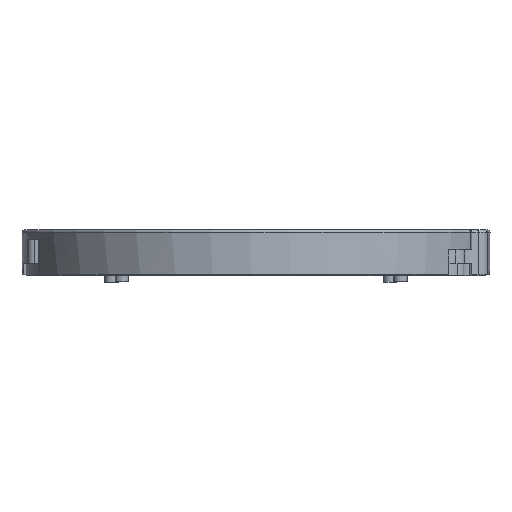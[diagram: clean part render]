
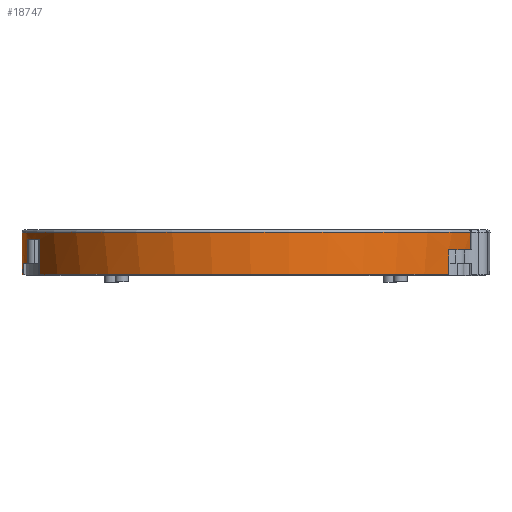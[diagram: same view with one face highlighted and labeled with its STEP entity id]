
A CAD part, top view. The second image highlights one B-rep face of the part: STEP entity #18747.
In plain terms, the highlighted cylindrical face has radius 17.5 mm (diameter 35 mm), a partial arc.
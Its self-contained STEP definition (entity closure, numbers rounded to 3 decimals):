
#1121=CIRCLE('',#19620,17.5);
#1209=CIRCLE('',#19878,17.5);
#1213=CIRCLE('',#19883,17.5);
#1235=CIRCLE('',#19919,17.5);
#1236=CIRCLE('',#19920,17.5);
#1237=CIRCLE('',#19921,17.5);
#1568=CYLINDRICAL_SURFACE('',#19918,17.5);
#1968=FACE_OUTER_BOUND('',#3045,.T.);
#3045=EDGE_LOOP('',(#13637,#13638,#13639,#13640,#13641,#13642,#13643,#13644,
#13645,#13646,#13647,#13648));
#4436=LINE('',#27617,#6217);
#4445=LINE('',#27655,#6226);
#4446=LINE('',#27658,#6227);
#4447=LINE('',#27661,#6228);
#4448=LINE('',#27662,#6229);
#4449=LINE('',#27664,#6230);
#6217=VECTOR('',#21938,10.);
#6226=VECTOR('',#21983,10.);
#6227=VECTOR('',#21986,10.);
#6228=VECTOR('',#21989,10.);
#6229=VECTOR('',#21990,10.);
#6230=VECTOR('',#21991,10.);
#7525=VERTEX_POINT('',#25135);
#7526=VERTEX_POINT('',#25137);
#8018=VERTEX_POINT('',#27571);
#8022=VERTEX_POINT('',#27578);
#8023=VERTEX_POINT('',#27582);
#8027=VERTEX_POINT('',#27589);
#8034=VERTEX_POINT('',#27613);
#8044=VERTEX_POINT('',#27649);
#8045=VERTEX_POINT('',#27653);
#8046=VERTEX_POINT('',#27657);
#8047=VERTEX_POINT('',#27659);
#8048=VERTEX_POINT('',#27663);
#9421=EDGE_CURVE('',#7526,#7525,#1121,.T.);
#10131=EDGE_CURVE('',#8022,#8018,#1209,.T.);
#10136=EDGE_CURVE('',#8027,#8023,#1213,.T.);
#10149=EDGE_CURVE('',#8018,#8034,#4436,.T.);
#10169=EDGE_CURVE('',#8044,#8045,#4445,.T.);
#10170=EDGE_CURVE('',#8046,#8022,#4446,.T.);
#10171=EDGE_CURVE('',#8047,#8046,#1235,.T.);
#10172=EDGE_CURVE('',#7526,#8047,#4447,.T.);
#10173=EDGE_CURVE('',#8023,#7525,#4448,.T.);
#10174=EDGE_CURVE('',#8027,#8048,#4449,.T.);
#10175=EDGE_CURVE('',#8048,#8045,#1236,.T.);
#10176=EDGE_CURVE('',#8034,#8044,#1237,.T.);
#13637=ORIENTED_EDGE('',*,*,#10149,.F.);
#13638=ORIENTED_EDGE('',*,*,#10131,.F.);
#13639=ORIENTED_EDGE('',*,*,#10170,.F.);
#13640=ORIENTED_EDGE('',*,*,#10171,.F.);
#13641=ORIENTED_EDGE('',*,*,#10172,.F.);
#13642=ORIENTED_EDGE('',*,*,#9421,.T.);
#13643=ORIENTED_EDGE('',*,*,#10173,.F.);
#13644=ORIENTED_EDGE('',*,*,#10136,.F.);
#13645=ORIENTED_EDGE('',*,*,#10174,.T.);
#13646=ORIENTED_EDGE('',*,*,#10175,.T.);
#13647=ORIENTED_EDGE('',*,*,#10169,.F.);
#13648=ORIENTED_EDGE('',*,*,#10176,.F.);
#18747=ADVANCED_FACE('',(#1968),#1568,.T.);
#19620=AXIS2_PLACEMENT_3D('',#25138,#20907,#20908);
#19878=AXIS2_PLACEMENT_3D('',#27580,#21891,#21892);
#19883=AXIS2_PLACEMENT_3D('',#27591,#21902,#21903);
#19918=AXIS2_PLACEMENT_3D('',#27656,#21984,#21985);
#19919=AXIS2_PLACEMENT_3D('',#27660,#21987,#21988);
#19920=AXIS2_PLACEMENT_3D('',#27665,#21992,#21993);
#19921=AXIS2_PLACEMENT_3D('',#27666,#21994,#21995);
#20907=DIRECTION('center_axis',(0.,1.,0.));
#20908=DIRECTION('ref_axis',(-1.,0.,0.));
#21891=DIRECTION('center_axis',(0.,-1.,0.));
#21892=DIRECTION('ref_axis',(-0.992,0.,0.13));
#21902=DIRECTION('center_axis',(0.,-1.,0.));
#21903=DIRECTION('ref_axis',(0.824,0.,0.567));
#21938=DIRECTION('',(0.,1.,0.));
#21983=DIRECTION('',(0.,-1.,0.));
#21984=DIRECTION('center_axis',(0.,1.,0.));
#21985=DIRECTION('ref_axis',(-1.,0.,0.));
#21986=DIRECTION('',(0.,-1.,0.));
#21987=DIRECTION('center_axis',(0.,-1.,0.));
#21988=DIRECTION('ref_axis',(-0.924,0.,0.383));
#21989=DIRECTION('',(0.,-1.,0.));
#21990=DIRECTION('',(0.,1.,0.));
#21991=DIRECTION('',(0.,1.,0.));
#21992=DIRECTION('center_axis',(0.,1.,0.));
#21993=DIRECTION('ref_axis',(-1.,0.,0.));
#21994=DIRECTION('center_axis',(0.,1.,0.));
#21995=DIRECTION('ref_axis',(-0.278,0.,0.961));
#25135=CARTESIAN_POINT('',(-16.166,1.8,6.702));
#25137=CARTESIAN_POINT('',(-17.057,1.8,3.912));
#25138=CARTESIAN_POINT('Origin',(0.,1.8,0.));
#27571=CARTESIAN_POINT('',(-17.289,-0.85,-2.708));
#27578=CARTESIAN_POINT('',(-17.351,-0.85,2.275));
#27580=CARTESIAN_POINT('Origin',(0.,-0.85,0.));
#27582=CARTESIAN_POINT('',(-16.166,-0.85,6.702));
#27589=CARTESIAN_POINT('',(14.414,-0.85,9.924));
#27591=CARTESIAN_POINT('Origin',(0.,-0.85,0.));
#27613=CARTESIAN_POINT('',(-17.289,2.3,-2.708));
#27617=CARTESIAN_POINT('',(-17.289,1.25,-2.708));
#27649=CARTESIAN_POINT('',(16.065,2.3,6.941));
#27653=CARTESIAN_POINT('',(16.065,1.,6.941));
#27655=CARTESIAN_POINT('',(16.065,1.25,6.941));
#27656=CARTESIAN_POINT('Origin',(0.,1.25,0.));
#27657=CARTESIAN_POINT('',(-17.351,0.,2.275));
#27658=CARTESIAN_POINT('',(-17.351,0.,2.275));
#27659=CARTESIAN_POINT('',(-17.057,0.,3.912));
#27660=CARTESIAN_POINT('Origin',(0.,0.,0.));
#27661=CARTESIAN_POINT('',(-17.057,1.25,3.912));
#27662=CARTESIAN_POINT('',(-16.166,1.25,6.702));
#27663=CARTESIAN_POINT('',(14.414,1.,9.924));
#27664=CARTESIAN_POINT('',(14.414,0.,9.924));
#27665=CARTESIAN_POINT('Origin',(0.,1.,0.));
#27666=CARTESIAN_POINT('Origin',(0.,2.3,0.));
